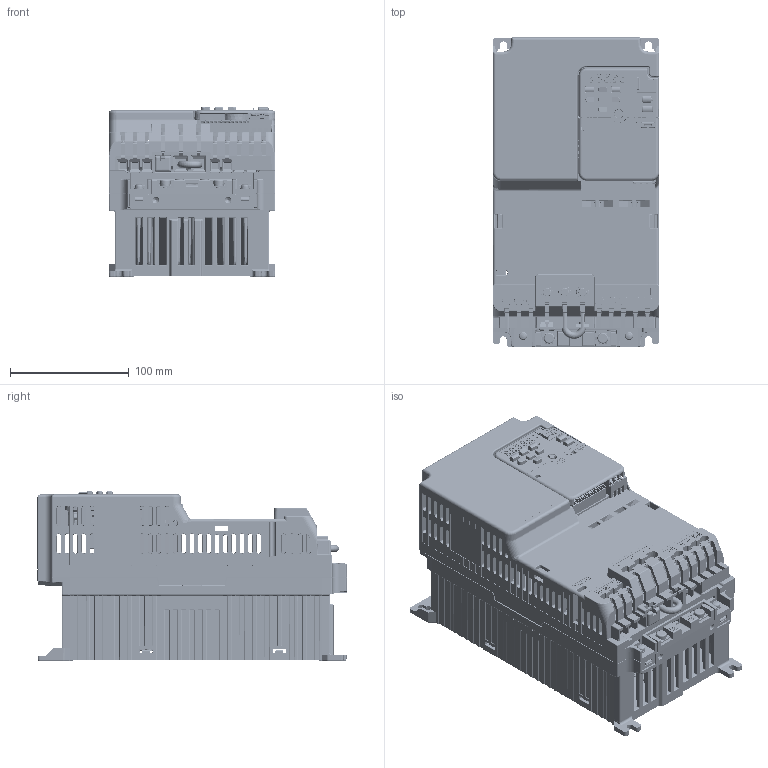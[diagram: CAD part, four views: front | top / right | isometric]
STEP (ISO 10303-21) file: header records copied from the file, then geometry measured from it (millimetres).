
FILE_DESCRIPTION((''),'2;1');
FILE_NAME('GA500_STD_FRAME_V5-B_ASM','2019-03-11T',('anm'),('YASKAWA ELECTRIC CORCORATION'),'PRO/ENGINEER BY PARAMETRIC TECHNOLOGY CORPORATION, 2015440','PRO/ENGINEER BY PARAMETRIC TECHNOLOGY CORPORATION, 2015440','');
FILE_SCHEMA(('CONFIG_CONTROL_DESIGN'));
Products named in the file (128): LAY_KIPR-GA50_Q_2042_1_1; 400-104-200_AF0_1_1; 400-107-683_1_1; SCAT41027-B_1_1; 06025VG-24S-BA-YY_02_1_1; 400-104-172_1_1; 400-104-295-01A-0_AF0_1_1; MKDS10HV_3-ZB-10P16_1_1; MKDS10HV_5-ZB-10P16_1_1; 300-093-088_AF0_1_1; ETP760500_AF0_ASM_1_ASM_1_ASM; SCAT41285_M4X12_TOGARISAKIKARI_; 400-104-159_AF0_1_1; 400-104-023-01F-5_1_1; 95003-2884_1_1; B12B-PASK-1_1_1; MANIFOLD_SOLID_BREP_571068_1; MANIFOLD_SOLID_BREP_571219_1; MANIFOLD_SOLID_BREP_571370_1; MANIFOLD_SOLID_BREP_571521_1; MANIFOLD_SOLID_BREP_571674_1; MANIFOLD_SOLID_BREP_571825_1; MANIFOLD_SOLID_BREP_571976_1; MANIFOLD_SOLID_BREP_572127_1; MANIFOLD_SOLID_BREP_572278_1; MANIFOLD_SOLID_BREP_572429_1; MANIFOLD_SOLID_BREP_572580_1; 1734753-1_AF1_1_ASM_1_ASM; MANIFOLD_SOLID_BREP_582499_1; MANIFOLD_SOLID_BREP_582683_1; MANIFOLD_SOLID_BREP_582867_1; MANIFOLD_SOLID_BREP_583051_1; MANIFOLD_SOLID_BREP_583235_1; MANIFOLD_SOLID_BREP_583386_1; MANIFOLD_SOLID_BREP_583537_1; MANIFOLD_SOLID_BREP_583688_1; MANIFOLD_SOLID_BREP_583839_1; MANIFOLD_SOLID_BREP_583990_1; MANIFOLD_SOLID_BREP_584141_1; MANIFOLD_SOLID_BREP_584292_1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
Assembly tree (133 placements, depth 7):
  GA500_STD_FRAME_V5-B_ASM
    GA500_STD_FRAME_V5-B_ASM_1_ASM
      KIPR-GA50_Q_2042_ASM_3_ASM_1_ASM
        LAY_KIPR-GA50_Q_2042_1_1
        400-104-200_AF0_1_1
        400-107-683_1_1
        SCAT41027-B_1_1  x2
        06025VG-24S-BA-YY_02_1_1  x2
        400-104-172_1_1
        ETP760500_AF0_ASM_1_ASM_1_ASM
          400-104-295-01A-0_AF0_1_1
          MKDS10HV_3-ZB-10P16_1_1
          MKDS10HV_5-ZB-10P16_1_1
          300-093-088_AF0_1_1
        SCAT41285_M4X12_TOGARISAKIKARI_  x4
        400-104-159_AF0_1_1
        KTC750050-SXXXX_ASM_1_ASM_1_ASM
          400-104-023-01F-5_1_1
          95003-2884_1_1
          B12B-PASK-1_1_1
          1734753-1_AF1_1_ASM_1_ASM
            MANIFOLD_SOLID_BREP_571068_1
            MANIFOLD_SOLID_BREP_571219_1
            MANIFOLD_SOLID_BREP_571370_1
            MANIFOLD_SOLID_BREP_571521_1
            MANIFOLD_SOLID_BREP_571674_1
            MANIFOLD_SOLID_BREP_571825_1
            MANIFOLD_SOLID_BREP_571976_1
            MANIFOLD_SOLID_BREP_572127_1
            MANIFOLD_SOLID_BREP_572278_1
            MANIFOLD_SOLID_BREP_572429_1
            MANIFOLD_SOLID_BREP_572580_1
          DHB-PD20-S131N-4P9_AF1_1_ASM_1_ASM
            MANIFOLD_SOLID_BREP_582499_1
            MANIFOLD_SOLID_BREP_582683_1
            MANIFOLD_SOLID_BREP_582867_1
            MANIFOLD_SOLID_BREP_583051_1
            MANIFOLD_SOLID_BREP_583235_1
            MANIFOLD_SOLID_BREP_583386_1
            MANIFOLD_SOLID_BREP_583537_1
            MANIFOLD_SOLID_BREP_583688_1
            MANIFOLD_SOLID_BREP_583839_1
            MANIFOLD_SOLID_BREP_583990_1
            MANIFOLD_SOLID_BREP_584141_1
            MANIFOLD_SOLID_BREP_584292_1
            MANIFOLD_SOLID_BREP_584443_1
            MANIFOLD_SOLID_BREP_584594_1
            MANIFOLD_SOLID_BREP_584745_1
            MANIFOLD_SOLID_BREP_584896_1
            MANIFOLD_SOLID_BREP_585047_1
            MANIFOLD_SOLID_BREP_585198_1
            MANIFOLD_SOLID_BREP_585349_1
            MANIFOLD_SOLID_BREP_585500_1
            MANIFOLD_SOLID_BREP_585651_1
            MANIFOLD_SOLID_BREP_585802_1
            MANIFOLD_SOLID_BREP_585953_1
            MANIFOLD_SOLID_BREP_586104_1
            MANIFOLD_SOLID_BREP_586255_1
          KARI_SPTA1_9-3P5_AF0_1_ASM_1_ASM
            MANIFOLD_SOLID_BREP_592822_1
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Bounding box: 140.02 x 260 x 142.75 mm (x, y, z)
Volume: 1153218.4 mm3; surface area: 675461.3 mm2
Topology: 117 solids, 147 shells, 20918 faces, 56789 edges, 36404 vertices
Faces by surface type: plane 12822, cylinder 4408, bspline 1589, cone 1150, torus 668, sphere 281
Entity records: 753996 total; most frequent: CARTESIAN_POINT 246943, ORIENTED_EDGE 110973, DIRECTION 96085, EDGE_CURVE 55497, VECTOR 38675, LINE 38675, VERTEX_POINT 35777, AXIS2_PLACEMENT_3D 28705
